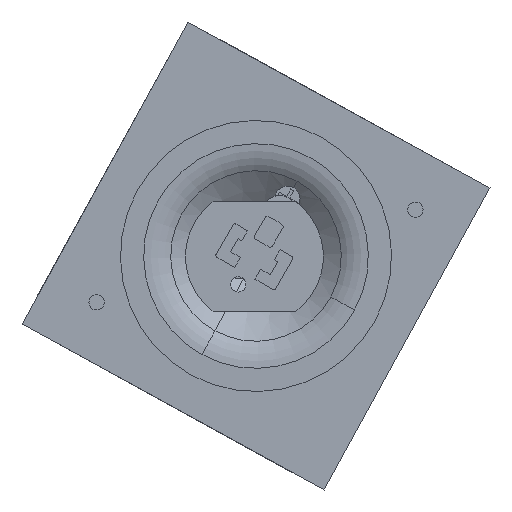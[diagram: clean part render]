
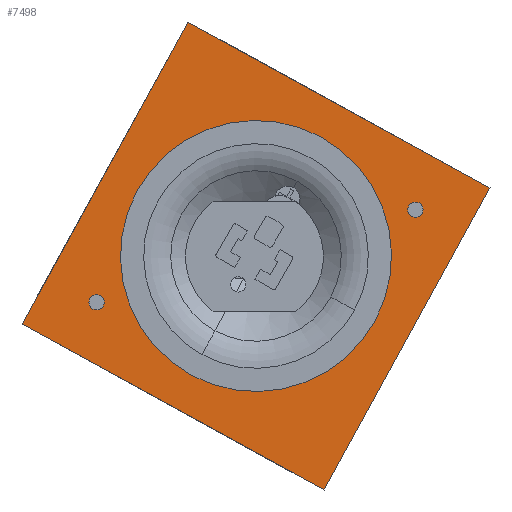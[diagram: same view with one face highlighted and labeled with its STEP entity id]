
A CAD part, left-side view. The second image highlights one B-rep face of the part: STEP entity #7498.
In plain terms, the highlighted planar face has unit normal (-1, 0, 0) as drawn and (0, -1, 0) by its records, which use the part's own axes.
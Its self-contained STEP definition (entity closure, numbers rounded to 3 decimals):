
#5065=DIRECTION('',(0.,0.,1.));
#5066=VECTOR('',#5065,75.);
#5067=CARTESIAN_POINT('',(-37.5,0.,-37.5));
#5068=LINE('',#5067,#5066);
#5069=DIRECTION('',(1.,0.,0.));
#5070=VECTOR('',#5069,75.);
#5071=CARTESIAN_POINT('',(-37.5,0.,37.5));
#5072=LINE('',#5071,#5070);
#5073=DIRECTION('',(0.,0.,-1.));
#5074=VECTOR('',#5073,75.);
#5075=CARTESIAN_POINT('',(37.5,0.,37.5));
#5076=LINE('',#5075,#5074);
#5077=DIRECTION('',(-1.,0.,0.));
#5078=VECTOR('',#5077,75.);
#5079=CARTESIAN_POINT('',(37.5,0.,-37.5));
#5080=LINE('',#5079,#5078);
#5081=CARTESIAN_POINT('',(0.,0.,0.));
#5082=DIRECTION('',(0.,-1.,0.));
#5083=DIRECTION('',(-1.,0.,0.));
#5084=AXIS2_PLACEMENT_3D('',#5081,#5082,#5083);
#5086=CARTESIAN_POINT('',(0.,0.,0.));
#5087=DIRECTION('',(0.,-1.,0.));
#5088=DIRECTION('',(1.,0.,0.));
#5089=AXIS2_PLACEMENT_3D('',#5086,#5087,#5088);
#5091=CARTESIAN_POINT('',(-25.55,0.,-25.55));
#5092=DIRECTION('',(0.,-1.,0.));
#5093=DIRECTION('',(0.,0.,1.));
#5094=AXIS2_PLACEMENT_3D('',#5091,#5092,#5093);
#5096=CARTESIAN_POINT('',(-25.55,0.,-25.55));
#5097=DIRECTION('',(0.,-1.,0.));
#5098=DIRECTION('',(0.,0.,-1.));
#5099=AXIS2_PLACEMENT_3D('',#5096,#5097,#5098);
#5101=CARTESIAN_POINT('',(25.55,0.,25.55));
#5102=DIRECTION('',(0.,-1.,0.));
#5103=DIRECTION('',(0.,0.,-1.));
#5104=AXIS2_PLACEMENT_3D('',#5101,#5102,#5103);
#5106=CARTESIAN_POINT('',(25.55,0.,25.55));
#5107=DIRECTION('',(0.,-1.,0.));
#5108=DIRECTION('',(0.,0.,1.));
#5109=AXIS2_PLACEMENT_3D('',#5106,#5107,#5108);
#7087=CARTESIAN_POINT('',(-37.5,0.,-37.5));
#7088=CARTESIAN_POINT('',(-37.5,0.,37.5));
#7089=VERTEX_POINT('',#7087);
#7090=VERTEX_POINT('',#7088);
#7091=CARTESIAN_POINT('',(37.5,0.,37.5));
#7092=VERTEX_POINT('',#7091);
#7093=CARTESIAN_POINT('',(37.5,0.,-37.5));
#7094=VERTEX_POINT('',#7093);
#7143=CARTESIAN_POINT('',(-29.5,0.,0.));
#7144=CARTESIAN_POINT('',(29.5,0.,0.));
#7145=VERTEX_POINT('',#7143);
#7146=VERTEX_POINT('',#7144);
#7159=CARTESIAN_POINT('',(-25.55,0.,-23.9));
#7160=CARTESIAN_POINT('',(-25.55,0.,-27.2));
#7161=VERTEX_POINT('',#7159);
#7162=VERTEX_POINT('',#7160);
#7167=CARTESIAN_POINT('',(25.55,0.,23.9));
#7168=CARTESIAN_POINT('',(25.55,0.,27.2));
#7169=VERTEX_POINT('',#7167);
#7170=VERTEX_POINT('',#7168);
#7465=CARTESIAN_POINT('',(0.,0.,0.));
#7466=DIRECTION('',(0.,1.,0.));
#7467=DIRECTION('',(1.,0.,0.));
#7468=AXIS2_PLACEMENT_3D('',#7465,#7466,#7467);
#7469=PLANE('',#7468);
#7471=ORIENTED_EDGE('',*,*,#7470,.T.);
#7473=ORIENTED_EDGE('',*,*,#7472,.T.);
#7475=ORIENTED_EDGE('',*,*,#7474,.T.);
#7477=ORIENTED_EDGE('',*,*,#7476,.T.);
#7478=EDGE_LOOP('',(#7471,#7473,#7475,#7477));
#7479=FACE_OUTER_BOUND('',#7478,.F.);
#7481=ORIENTED_EDGE('',*,*,#7480,.T.);
#7483=ORIENTED_EDGE('',*,*,#7482,.T.);
#7484=EDGE_LOOP('',(#7481,#7483));
#7485=FACE_BOUND('',#7484,.F.);
#7487=ORIENTED_EDGE('',*,*,#7486,.T.);
#7489=ORIENTED_EDGE('',*,*,#7488,.T.);
#7490=EDGE_LOOP('',(#7487,#7489));
#7491=FACE_BOUND('',#7490,.F.);
#7493=ORIENTED_EDGE('',*,*,#7492,.T.);
#7495=ORIENTED_EDGE('',*,*,#7494,.T.);
#7496=EDGE_LOOP('',(#7493,#7495));
#7497=FACE_BOUND('',#7496,.F.);
#7498=ADVANCED_FACE('',(#7479,#7485,#7491,#7497),#7469,.F.);
#5085=CIRCLE('',#5084,29.5);
#5090=CIRCLE('',#5089,29.5);
#5095=CIRCLE('',#5094,1.65);
#5100=CIRCLE('',#5099,1.65);
#5105=CIRCLE('',#5104,1.65);
#5110=CIRCLE('',#5109,1.65);
#7470=EDGE_CURVE('',#7089,#7090,#5068,.T.);
#7472=EDGE_CURVE('',#7090,#7092,#5072,.T.);
#7474=EDGE_CURVE('',#7092,#7094,#5076,.T.);
#7476=EDGE_CURVE('',#7094,#7089,#5080,.T.);
#7480=EDGE_CURVE('',#7145,#7146,#5085,.T.);
#7482=EDGE_CURVE('',#7146,#7145,#5090,.T.);
#7486=EDGE_CURVE('',#7161,#7162,#5095,.T.);
#7488=EDGE_CURVE('',#7162,#7161,#5100,.T.);
#7492=EDGE_CURVE('',#7169,#7170,#5105,.T.);
#7494=EDGE_CURVE('',#7170,#7169,#5110,.T.);
